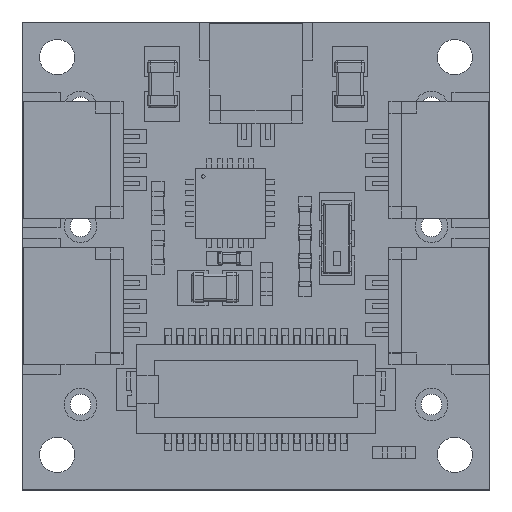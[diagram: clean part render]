
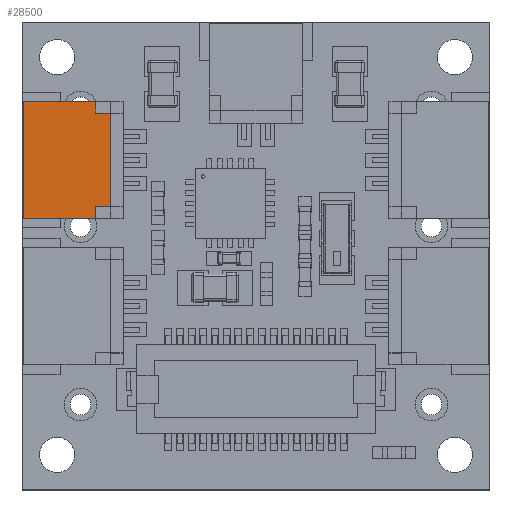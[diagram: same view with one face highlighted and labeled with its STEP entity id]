
A CAD part, top view. The second image highlights one B-rep face of the part: STEP entity #28500.
In plain terms, the highlighted planar face has unit normal (0, 0, 1).
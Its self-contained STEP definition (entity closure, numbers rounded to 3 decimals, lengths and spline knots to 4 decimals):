
#27222 = PLANE('',#27223);
#27223 = AXIS2_PLACEMENT_3D('',#27224,#27225,#27226);
#27224 = CARTESIAN_POINT('',(10.075,25.6,3.565));
#27225 = DIRECTION('',(1.,0.,0.));
#27226 = DIRECTION('',(0.,1.,0.));
#27684 = VERTEX_POINT('',#27685);
#27685 = CARTESIAN_POINT('',(10.075,26.6,3.505));
#27699 = PLANE('',#27700);
#27700 = AXIS2_PLACEMENT_3D('',#27701,#27702,#27703);
#27701 = CARTESIAN_POINT('',(14.325,26.6,3.565));
#27702 = DIRECTION('',(0.,-1.,0.));
#27703 = DIRECTION('',(1.,0.,0.));
#27711 = EDGE_CURVE('',#27712,#27684,#27714,.T.);
#27712 = VERTEX_POINT('',#27713);
#27713 = CARTESIAN_POINT('',(10.075,21.6,3.505));
#27714 = SURFACE_CURVE('',#27715,(#27719,#27726),.PCURVE_S1.);
#27715 = LINE('',#27716,#27717);
#27716 = CARTESIAN_POINT('',(10.075,21.6,3.505));
#27717 = VECTOR('',#27718,1.);
#27718 = DIRECTION('',(0.,1.,0.));
#27719 = PCURVE('',#27222,#27720);
#27720 = DEFINITIONAL_REPRESENTATION('',(#27721),#27725);
#27721 = LINE('',#27722,#27723);
#27722 = CARTESIAN_POINT('',(-4.,-0.06));
#27723 = VECTOR('',#27724,1.);
#27724 = DIRECTION('',(1.,0.));
#27725 = ( GEOMETRIC_REPRESENTATION_CONTEXT(2) 
PARAMETRIC_REPRESENTATION_CONTEXT() REPRESENTATION_CONTEXT('2D SPACE',''
  ) );
#27726 = PCURVE('',#27727,#27732);
#27727 = PLANE('',#27728);
#27728 = AXIS2_PLACEMENT_3D('',#27729,#27730,#27731);
#27729 = CARTESIAN_POINT('',(12.8363,25.1,3.505));
#27730 = DIRECTION('',(-0.,0.,-1.));
#27731 = DIRECTION('',(0.,-1.,0.));
#27732 = DEFINITIONAL_REPRESENTATION('',(#27733),#27737);
#27733 = LINE('',#27734,#27735);
#27734 = CARTESIAN_POINT('',(3.5,2.761));
#27735 = VECTOR('',#27736,1.);
#27736 = DIRECTION('',(-1.,0.));
#27737 = ( GEOMETRIC_REPRESENTATION_CONTEXT(2) 
PARAMETRIC_REPRESENTATION_CONTEXT() REPRESENTATION_CONTEXT('2D SPACE',''
  ) );
#27753 = PLANE('',#27754);
#27754 = AXIS2_PLACEMENT_3D('',#27755,#27756,#27757);
#27755 = CARTESIAN_POINT('',(14.325,21.6,3.565));
#27756 = DIRECTION('',(0.,1.,0.));
#27757 = DIRECTION('',(0.,0.,-1.));
#28238 = EDGE_CURVE('',#27712,#28239,#28241,.T.);
#28239 = VERTEX_POINT('',#28240);
#28240 = CARTESIAN_POINT('',(13.1263,21.6,3.505));
#28241 = SURFACE_CURVE('',#28242,(#28246,#28253),.PCURVE_S1.);
#28242 = LINE('',#28243,#28244);
#28243 = CARTESIAN_POINT('',(10.075,21.6,3.505));
#28244 = VECTOR('',#28245,1.);
#28245 = DIRECTION('',(1.,0.,0.));
#28246 = PCURVE('',#27753,#28247);
#28247 = DEFINITIONAL_REPRESENTATION('',(#28248),#28252);
#28248 = LINE('',#28249,#28250);
#28249 = CARTESIAN_POINT('',(0.06,4.25));
#28250 = VECTOR('',#28251,1.);
#28251 = DIRECTION('',(0.,-1.));
#28252 = ( GEOMETRIC_REPRESENTATION_CONTEXT(2) 
PARAMETRIC_REPRESENTATION_CONTEXT() REPRESENTATION_CONTEXT('2D SPACE',''
  ) );
#28253 = PCURVE('',#27727,#28254);
#28254 = DEFINITIONAL_REPRESENTATION('',(#28255),#28259);
#28255 = LINE('',#28256,#28257);
#28256 = CARTESIAN_POINT('',(3.5,2.761));
#28257 = VECTOR('',#28258,1.);
#28258 = DIRECTION('',(0.,-1.));
#28259 = ( GEOMETRIC_REPRESENTATION_CONTEXT(2) 
PARAMETRIC_REPRESENTATION_CONTEXT() REPRESENTATION_CONTEXT('2D SPACE',''
  ) );
#28277 = PLANE('',#28278);
#28278 = AXIS2_PLACEMENT_3D('',#28279,#28280,#28281);
#28279 = CARTESIAN_POINT('',(13.1263,21.6,3.565));
#28280 = DIRECTION('',(1.,0.,0.));
#28281 = DIRECTION('',(0.,0.,1.));
#28500 = ADVANCED_FACE('',(#28501),#27727,.F.);
#28501 = FACE_BOUND('',#28502,.F.);
#28502 = EDGE_LOOP('',(#28503,#28533,#28554,#28555,#28556,#28579,#28607,
    #28635));
#28503 = ORIENTED_EDGE('',*,*,#28504,.F.);
#28504 = EDGE_CURVE('',#28505,#28507,#28509,.T.);
#28505 = VERTEX_POINT('',#28506);
#28506 = CARTESIAN_POINT('',(13.1263,22.1,3.505));
#28507 = VERTEX_POINT('',#28508);
#28508 = CARTESIAN_POINT('',(13.775,22.1,3.505));
#28509 = SURFACE_CURVE('',#28510,(#28514,#28521),.PCURVE_S1.);
#28510 = LINE('',#28511,#28512);
#28511 = CARTESIAN_POINT('',(13.5807,22.1,3.505));
#28512 = VECTOR('',#28513,1.);
#28513 = DIRECTION('',(1.,0.,-0.));
#28514 = PCURVE('',#27727,#28515);
#28515 = DEFINITIONAL_REPRESENTATION('',(#28516),#28520);
#28516 = LINE('',#28517,#28518);
#28517 = CARTESIAN_POINT('',(3.,-0.744));
#28518 = VECTOR('',#28519,1.);
#28519 = DIRECTION('',(0.,-1.));
#28520 = ( GEOMETRIC_REPRESENTATION_CONTEXT(2) 
PARAMETRIC_REPRESENTATION_CONTEXT() REPRESENTATION_CONTEXT('2D SPACE',''
  ) );
#28521 = PCURVE('',#28522,#28527);
#28522 = PLANE('',#28523);
#28523 = AXIS2_PLACEMENT_3D('',#28524,#28525,#28526);
#28524 = CARTESIAN_POINT('',(14.325,22.1,3.065));
#28525 = DIRECTION('',(0.,1.,0.));
#28526 = DIRECTION('',(0.,0.,-1.));
#28527 = DEFINITIONAL_REPRESENTATION('',(#28528),#28532);
#28528 = LINE('',#28529,#28530);
#28529 = CARTESIAN_POINT('',(-0.44,0.744));
#28530 = VECTOR('',#28531,1.);
#28531 = DIRECTION('',(0.,-1.));
#28532 = ( GEOMETRIC_REPRESENTATION_CONTEXT(2) 
PARAMETRIC_REPRESENTATION_CONTEXT() REPRESENTATION_CONTEXT('2D SPACE',''
  ) );
#28533 = ORIENTED_EDGE('',*,*,#28534,.T.);
#28534 = EDGE_CURVE('',#28505,#28239,#28535,.T.);
#28535 = SURFACE_CURVE('',#28536,(#28540,#28547),.PCURVE_S1.);
#28536 = LINE('',#28537,#28538);
#28537 = CARTESIAN_POINT('',(13.1263,22.1,3.505));
#28538 = VECTOR('',#28539,1.);
#28539 = DIRECTION('',(0.,-1.,0.));
#28540 = PCURVE('',#27727,#28541);
#28541 = DEFINITIONAL_REPRESENTATION('',(#28542),#28546);
#28542 = LINE('',#28543,#28544);
#28543 = CARTESIAN_POINT('',(3.,-0.29));
#28544 = VECTOR('',#28545,1.);
#28545 = DIRECTION('',(1.,0.));
#28546 = ( GEOMETRIC_REPRESENTATION_CONTEXT(2) 
PARAMETRIC_REPRESENTATION_CONTEXT() REPRESENTATION_CONTEXT('2D SPACE',''
  ) );
#28547 = PCURVE('',#28277,#28548);
#28548 = DEFINITIONAL_REPRESENTATION('',(#28549),#28553);
#28549 = LINE('',#28550,#28551);
#28550 = CARTESIAN_POINT('',(-0.06,-0.5));
#28551 = VECTOR('',#28552,1.);
#28552 = DIRECTION('',(0.,1.));
#28553 = ( GEOMETRIC_REPRESENTATION_CONTEXT(2) 
PARAMETRIC_REPRESENTATION_CONTEXT() REPRESENTATION_CONTEXT('2D SPACE',''
  ) );
#28554 = ORIENTED_EDGE('',*,*,#28238,.F.);
#28555 = ORIENTED_EDGE('',*,*,#27711,.T.);
#28556 = ORIENTED_EDGE('',*,*,#28557,.F.);
#28557 = EDGE_CURVE('',#28558,#27684,#28560,.T.);
#28558 = VERTEX_POINT('',#28559);
#28559 = CARTESIAN_POINT('',(13.1263,26.6,3.505));
#28560 = SURFACE_CURVE('',#28561,(#28565,#28572),.PCURVE_S1.);
#28561 = LINE('',#28562,#28563);
#28562 = CARTESIAN_POINT('',(13.1263,26.6,3.505));
#28563 = VECTOR('',#28564,1.);
#28564 = DIRECTION('',(-1.,0.,0.));
#28565 = PCURVE('',#27727,#28566);
#28566 = DEFINITIONAL_REPRESENTATION('',(#28567),#28571);
#28567 = LINE('',#28568,#28569);
#28568 = CARTESIAN_POINT('',(-1.5,-0.29));
#28569 = VECTOR('',#28570,1.);
#28570 = DIRECTION('',(0.,1.));
#28571 = ( GEOMETRIC_REPRESENTATION_CONTEXT(2) 
PARAMETRIC_REPRESENTATION_CONTEXT() REPRESENTATION_CONTEXT('2D SPACE',''
  ) );
#28572 = PCURVE('',#27699,#28573);
#28573 = DEFINITIONAL_REPRESENTATION('',(#28574),#28578);
#28574 = LINE('',#28575,#28576);
#28575 = CARTESIAN_POINT('',(-1.199,-0.06));
#28576 = VECTOR('',#28577,1.);
#28577 = DIRECTION('',(-1.,0.));
#28578 = ( GEOMETRIC_REPRESENTATION_CONTEXT(2) 
PARAMETRIC_REPRESENTATION_CONTEXT() REPRESENTATION_CONTEXT('2D SPACE',''
  ) );
#28579 = ORIENTED_EDGE('',*,*,#28580,.F.);
#28580 = EDGE_CURVE('',#28581,#28558,#28583,.T.);
#28581 = VERTEX_POINT('',#28582);
#28582 = CARTESIAN_POINT('',(13.1263,26.1,3.505));
#28583 = SURFACE_CURVE('',#28584,(#28588,#28595),.PCURVE_S1.);
#28584 = LINE('',#28585,#28586);
#28585 = CARTESIAN_POINT('',(13.1263,26.1,3.505));
#28586 = VECTOR('',#28587,1.);
#28587 = DIRECTION('',(0.,1.,0.));
#28588 = PCURVE('',#27727,#28589);
#28589 = DEFINITIONAL_REPRESENTATION('',(#28590),#28594);
#28590 = LINE('',#28591,#28592);
#28591 = CARTESIAN_POINT('',(-1.,-0.29));
#28592 = VECTOR('',#28593,1.);
#28593 = DIRECTION('',(-1.,0.));
#28594 = ( GEOMETRIC_REPRESENTATION_CONTEXT(2) 
PARAMETRIC_REPRESENTATION_CONTEXT() REPRESENTATION_CONTEXT('2D SPACE',''
  ) );
#28595 = PCURVE('',#28596,#28601);
#28596 = PLANE('',#28597);
#28597 = AXIS2_PLACEMENT_3D('',#28598,#28599,#28600);
#28598 = CARTESIAN_POINT('',(13.1263,26.6,3.565));
#28599 = DIRECTION('',(1.,0.,-0.));
#28600 = DIRECTION('',(0.,-0.,-1.));
#28601 = DEFINITIONAL_REPRESENTATION('',(#28602),#28606);
#28602 = LINE('',#28603,#28604);
#28603 = CARTESIAN_POINT('',(0.06,-0.5));
#28604 = VECTOR('',#28605,1.);
#28605 = DIRECTION('',(0.,1.));
#28606 = ( GEOMETRIC_REPRESENTATION_CONTEXT(2) 
PARAMETRIC_REPRESENTATION_CONTEXT() REPRESENTATION_CONTEXT('2D SPACE',''
  ) );
#28607 = ORIENTED_EDGE('',*,*,#28608,.T.);
#28608 = EDGE_CURVE('',#28581,#28609,#28611,.T.);
#28609 = VERTEX_POINT('',#28610);
#28610 = CARTESIAN_POINT('',(13.775,26.1,3.505));
#28611 = SURFACE_CURVE('',#28612,(#28616,#28623),.PCURVE_S1.);
#28612 = LINE('',#28613,#28614);
#28613 = CARTESIAN_POINT('',(13.5807,26.1,3.505));
#28614 = VECTOR('',#28615,1.);
#28615 = DIRECTION('',(1.,0.,-0.));
#28616 = PCURVE('',#27727,#28617);
#28617 = DEFINITIONAL_REPRESENTATION('',(#28618),#28622);
#28618 = LINE('',#28619,#28620);
#28619 = CARTESIAN_POINT('',(-1.,-0.744));
#28620 = VECTOR('',#28621,1.);
#28621 = DIRECTION('',(0.,-1.));
#28622 = ( GEOMETRIC_REPRESENTATION_CONTEXT(2) 
PARAMETRIC_REPRESENTATION_CONTEXT() REPRESENTATION_CONTEXT('2D SPACE',''
  ) );
#28623 = PCURVE('',#28624,#28629);
#28624 = PLANE('',#28625);
#28625 = AXIS2_PLACEMENT_3D('',#28626,#28627,#28628);
#28626 = CARTESIAN_POINT('',(14.325,26.1,3.065));
#28627 = DIRECTION('',(0.,-1.,0.));
#28628 = DIRECTION('',(0.,0.,-1.));
#28629 = DEFINITIONAL_REPRESENTATION('',(#28630),#28634);
#28630 = LINE('',#28631,#28632);
#28631 = CARTESIAN_POINT('',(-0.44,-0.744));
#28632 = VECTOR('',#28633,1.);
#28633 = DIRECTION('',(0.,1.));
#28634 = ( GEOMETRIC_REPRESENTATION_CONTEXT(2) 
PARAMETRIC_REPRESENTATION_CONTEXT() REPRESENTATION_CONTEXT('2D SPACE',''
  ) );
#28635 = ORIENTED_EDGE('',*,*,#28636,.F.);
#28636 = EDGE_CURVE('',#28507,#28609,#28637,.T.);
#28637 = SURFACE_CURVE('',#28638,(#28642,#28649),.PCURVE_S1.);
#28638 = LINE('',#28639,#28640);
#28639 = CARTESIAN_POINT('',(13.775,22.1,3.505));
#28640 = VECTOR('',#28641,1.);
#28641 = DIRECTION('',(0.,1.,0.));
#28642 = PCURVE('',#27727,#28643);
#28643 = DEFINITIONAL_REPRESENTATION('',(#28644),#28648);
#28644 = LINE('',#28645,#28646);
#28645 = CARTESIAN_POINT('',(3.,-0.939));
#28646 = VECTOR('',#28647,1.);
#28647 = DIRECTION('',(-1.,0.));
#28648 = ( GEOMETRIC_REPRESENTATION_CONTEXT(2) 
PARAMETRIC_REPRESENTATION_CONTEXT() REPRESENTATION_CONTEXT('2D SPACE',''
  ) );
#28649 = PCURVE('',#28650,#28655);
#28650 = PLANE('',#28651);
#28651 = AXIS2_PLACEMENT_3D('',#28652,#28653,#28654);
#28652 = CARTESIAN_POINT('',(13.775,25.1,3.065));
#28653 = DIRECTION('',(-1.,0.,0.));
#28654 = DIRECTION('',(0.,0.,1.));
#28655 = DEFINITIONAL_REPRESENTATION('',(#28656),#28660);
#28656 = LINE('',#28657,#28658);
#28657 = CARTESIAN_POINT('',(0.44,-3.));
#28658 = VECTOR('',#28659,1.);
#28659 = DIRECTION('',(0.,1.));
#28660 = ( GEOMETRIC_REPRESENTATION_CONTEXT(2) 
PARAMETRIC_REPRESENTATION_CONTEXT() REPRESENTATION_CONTEXT('2D SPACE',''
  ) );
